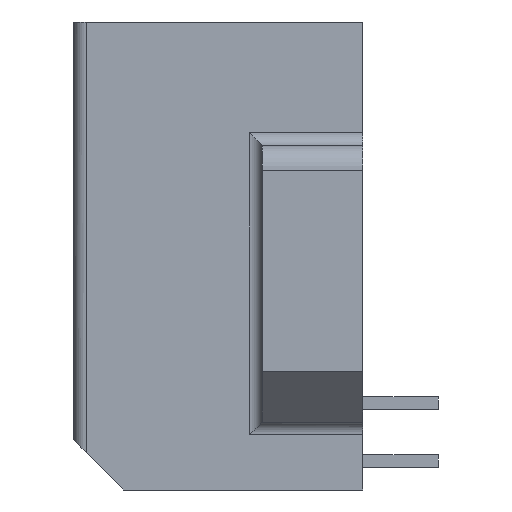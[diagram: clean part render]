
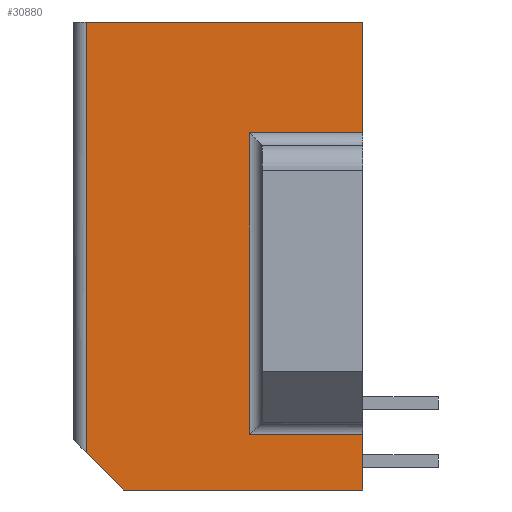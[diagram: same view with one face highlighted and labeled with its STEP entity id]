
A CAD part, left-side view. The second image highlights one B-rep face of the part: STEP entity #30880.
In plain terms, the highlighted planar face has unit normal (-1, 0, 0) as drawn and (1, 0, 0) by its records, which use the part's own axes.
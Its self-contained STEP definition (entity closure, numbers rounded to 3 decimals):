
#27370=CARTESIAN_POINT('',(-163.124,104.356,-14.7));
#27380=VERTEX_POINT('',#27370);
#27410=CARTESIAN_POINT('',(-163.124,0.,-14.7));
#27420=DIRECTION('',(0.,-1.,0.));
#27430=VECTOR('',#27420,1.);
#27440=LINE('',#27410,#27430);
#27450=CARTESIAN_POINT('',(-163.124,115.356,-14.7));
#27460=VERTEX_POINT('',#27450);
#27470=EDGE_CURVE('',#27460,#27380,#27440,.T.);
#28520=CARTESIAN_POINT('',(-163.124,104.356,-10.3));
#28530=VERTEX_POINT('',#28520);
#28560=CARTESIAN_POINT('',(-163.124,104.356,0.));
#28570=DIRECTION('',(0.,0.,1.));
#28580=VECTOR('',#28570,1.);
#28590=LINE('',#28560,#28580);
#28600=EDGE_CURVE('',#27380,#28530,#28590,.T.);
#28750=CARTESIAN_POINT('',(-163.124,104.356,3.9));
#28760=VERTEX_POINT('',#28750);
#28790=CARTESIAN_POINT('',(-163.124,104.356,1.7));
#28800=VERTEX_POINT('',#28790);
#28810=EDGE_CURVE('',#28800,#28760,#28590,.T.);
#30200=CARTESIAN_POINT('',(-163.124,108.856,-10.3));
#30210=VERTEX_POINT('',#30200);
#30300=CARTESIAN_POINT('',(-163.124,108.856,1.7));
#30310=VERTEX_POINT('',#30300);
#30340=CARTESIAN_POINT('',(-163.124,108.856,1.7));
#30350=DIRECTION('',(0.,0.,-1.));
#30360=VECTOR('',#30350,1.);
#30370=LINE('',#30340,#30360);
#30380=EDGE_CURVE('',#30310,#30210,#30370,.T.);
#30430=CARTESIAN_POINT('',(-163.124,116.956,1.9));
#30440=DIRECTION('',(1.,-0.,0.));
#30450=DIRECTION('',(0.,0.,-1.));
#30460=AXIS2_PLACEMENT_3D('',#30430,#30440,#30450);
#30470=PLANE('',#30460);
#30480=ORIENTED_EDGE('',*,*,#28600,.F.);
#30490=CARTESIAN_POINT('',(-163.124,108.856,-10.3));
#30500=DIRECTION('',(0.,-1.,0.));
#30510=VECTOR('',#30500,1.);
#30520=LINE('',#30490,#30510);
#30530=EDGE_CURVE('',#30210,#28530,#30520,.T.);
#30540=ORIENTED_EDGE('',*,*,#30530,.T.);
#30550=ORIENTED_EDGE('',*,*,#30380,.T.);
#30560=CARTESIAN_POINT('',(-163.124,108.856,1.7));
#30570=DIRECTION('',(0.,-1.,0.));
#30580=VECTOR('',#30570,1.);
#30590=LINE('',#30560,#30580);
#30600=EDGE_CURVE('',#30310,#28800,#30590,.T.);
#30610=ORIENTED_EDGE('',*,*,#30600,.F.);
#30620=ORIENTED_EDGE('',*,*,#28810,.F.);
#30630=CARTESIAN_POINT('',(-163.124,0.,3.9));
#30640=DIRECTION('',(0.,-1.,0.));
#30650=VECTOR('',#30640,1.);
#30660=LINE('',#30630,#30650);
#30670=CARTESIAN_POINT('',(-163.124,113.856,3.9));
#30680=VERTEX_POINT('',#30670);
#30690=EDGE_CURVE('',#30680,#28760,#30660,.T.);
#30700=ORIENTED_EDGE('',*,*,#30690,.T.);
#30710=CARTESIAN_POINT('',(-163.124,117.756,0.));
#30720=DIRECTION('',(0.,0.707,-0.707));
#30730=VECTOR('',#30720,1.);
#30740=LINE('',#30710,#30730);
#30750=CARTESIAN_POINT('',(-163.124,115.356,2.4));
#30760=VERTEX_POINT('',#30750);
#30770=EDGE_CURVE('',#30680,#30760,#30740,.T.);
#30780=ORIENTED_EDGE('',*,*,#30770,.F.);
#30790=CARTESIAN_POINT('',(-163.124,115.356,2.4))
;
#30800=DIRECTION('',(0.,0.,-1.));
#30810=VECTOR('',#30800,1.);
#30820=LINE('',#30790,#30810);
#30830=EDGE_CURVE('',#30760,#27460,#30820,.T.);
#30840=ORIENTED_EDGE('',*,*,#30830,.F.);
#30850=ORIENTED_EDGE('',*,*,#27470,.F.);
#30860=EDGE_LOOP('',(#30850,#30840,#30780,#30700,#30620,#30610,#30550,
#30540,#30480));
#30870=FACE_OUTER_BOUND('',#30860,.T.);
#30880=ADVANCED_FACE('',(#30870),#30470,.T.);
